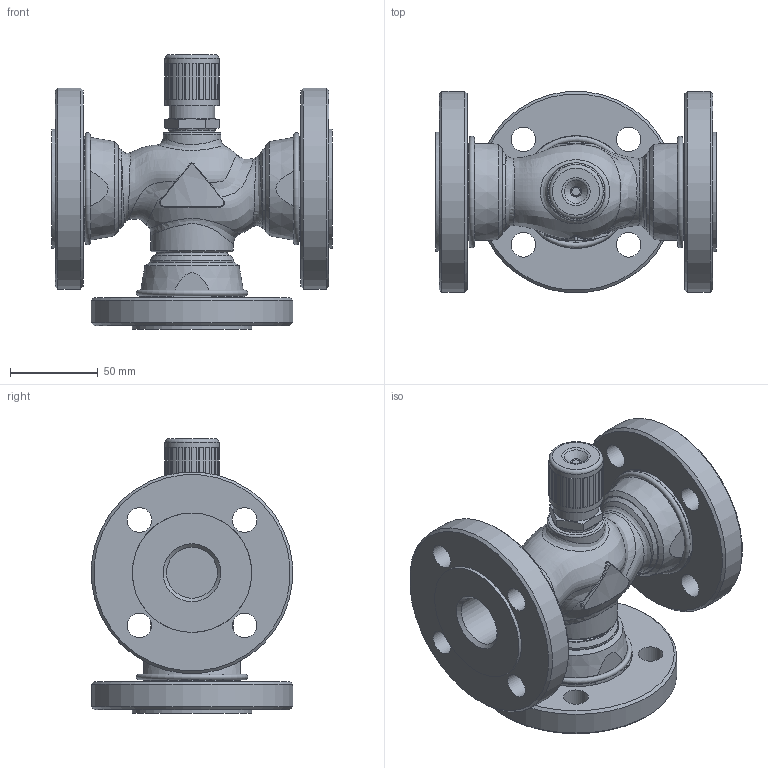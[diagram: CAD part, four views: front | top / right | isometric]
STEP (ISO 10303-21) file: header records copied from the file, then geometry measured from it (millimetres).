
FILE_DESCRIPTION(/* description */ (''),/* implementation_level */ '2;1');
FILE_NAME(/* name */ 'rv111r_dn25_3_F.stp',/* time_stamp */ '2012-02-21T13:12:31+01:00',/* author */ ('KLIMES'),/* organization */ ('LDM'),/* preprocessor_version */ 'ST-DEVELOPER v11',/* originating_system */ 'SIEMENS PLM Software NX 7.0',/* authorisation */ '');
FILE_SCHEMA (('CONFIG_CONTROL_DESIGN'));
Length unit declared in the file: millimetre
Products named in the file (1): klim56BEqbnf
Bounding box: 160 x 114.56 x 156.3 mm (x, y, z)
Volume: 800668.1 mm3; surface area: 147101.3 mm2
Topology: 8 solids, 8 shells, 338 faces, 772 edges, 494 vertices
Faces by surface type: plane 154, cone 77, cylinder 55, torus 27, bspline 25
Full cylindrical faces by diameter (mm): 8 x1, 14 x12, 23.4 x1, 24.117 x1, 26 x1, 26.5 x1, 29 x3, 30.8 x1, 33 x1, 40 x1, 44.845 x3, 47 x1, 47.8 x2, 47.803 x1, 48 x3, 68 x3, 115 x3
Entity records: 14682 total; most frequent: CARTESIAN_POINT 7602, DIRECTION 1456, ORIENTED_EDGE 1272, EDGE_CURVE 636, AXIS2_PLACEMENT_3D 611, EDGE_LOOP 510, VERTEX_POINT 456, ADVANCED_FACE 338
